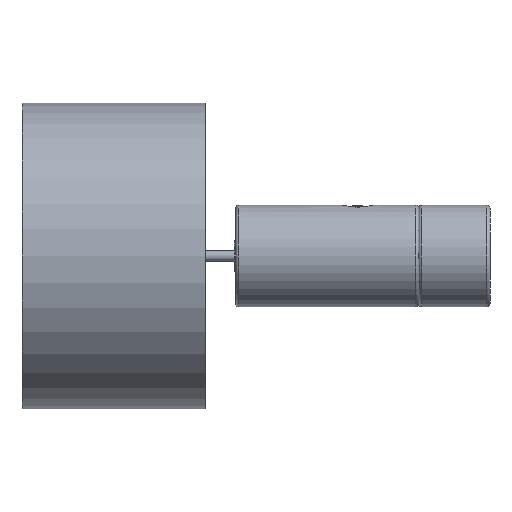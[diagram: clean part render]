
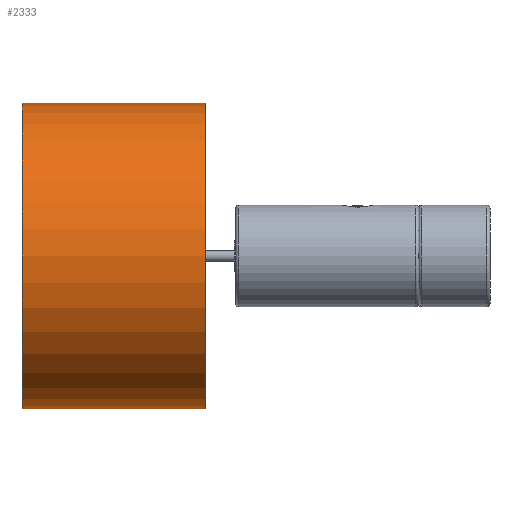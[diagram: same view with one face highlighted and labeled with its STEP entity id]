
A CAD part, left-side view. The second image highlights one B-rep face of the part: STEP entity #2333.
In plain terms, the highlighted cylindrical face has radius 150 mm (diameter 300 mm), a partial arc.
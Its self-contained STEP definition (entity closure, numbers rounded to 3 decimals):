
#37 = DIRECTION ( 'NONE',  ( 0., 0., 1. ) ) ;
#211 = DIRECTION ( 'NONE',  ( 0., -1., 0. ) ) ;
#245 = CIRCLE ( 'NONE', #2713, 150. ) ;
#260 = VERTEX_POINT ( 'NONE', #2412 ) ;
#264 = CARTESIAN_POINT ( 'NONE',  ( -21.861, 47.557, 481.5 ) ) ;
#419 = CYLINDRICAL_SURFACE ( 'NONE', #2124, 150. ) ;
#483 = EDGE_CURVE ( 'NONE', #260, #2710, #2455, .T. ) ;
#485 = CARTESIAN_POINT ( 'NONE',  ( -21.861, 227.557, 481.5 ) ) ;
#655 = DIRECTION ( 'NONE',  ( 0., 1., 0. ) ) ;
#678 = DIRECTION ( 'NONE',  ( 0., 0., 1. ) ) ;
#693 = DIRECTION ( 'NONE',  ( 0., 1., 0. ) ) ;
#746 = CARTESIAN_POINT ( 'NONE',  ( -21.861, 227.557, 331.5 ) ) ;
#832 = LINE ( 'NONE', #1497, #2453 ) ;
#882 = CARTESIAN_POINT ( 'NONE',  ( -21.861, 47.557, 631.5 ) ) ;
#1212 = ORIENTED_EDGE ( 'NONE', *, *, #2272, .T. ) ;
#1318 = ORIENTED_EDGE ( 'NONE', *, *, #1651, .T. ) ;
#1372 = DIRECTION ( 'NONE',  ( 0., 0., -1. ) ) ;
#1462 = VERTEX_POINT ( 'NONE', #746 ) ;
#1497 = CARTESIAN_POINT ( 'NONE',  ( -21.861, 227.557, 331.5 ) ) ;
#1651 = EDGE_CURVE ( 'NONE', #1462, #2448, #832, .T. ) ;
#1853 = CARTESIAN_POINT ( 'NONE',  ( -21.861, 47.557, 331.5 ) ) ;
#1963 = ORIENTED_EDGE ( 'NONE', *, *, #2740, .F. ) ;
#2007 = DIRECTION ( 'NONE',  ( 0., -1., 0. ) ) ;
#2027 = CARTESIAN_POINT ( 'NONE',  ( -21.861, 227.557, 631.5 ) ) ;
#2045 = DIRECTION ( 'NONE',  ( 0., -1., 0. ) ) ;
#2100 = ORIENTED_EDGE ( 'NONE', *, *, #483, .F. ) ;
#2124 = AXIS2_PLACEMENT_3D ( 'NONE', #485, #2007, #1372 ) ;
#2128 = CIRCLE ( 'NONE', #2579, 150. ) ;
#2272 = EDGE_CURVE ( 'NONE', #2448, #2710, #2128, .T. ) ;
#2333 = ADVANCED_FACE ( 'NONE', ( #2625 ), #419, .T. ) ;
#2412 = CARTESIAN_POINT ( 'NONE',  ( -21.861, 227.557, 631.5 ) ) ;
#2422 = EDGE_LOOP ( 'NONE', ( #2100, #1963, #1318, #1212 ) ) ;
#2435 = CARTESIAN_POINT ( 'NONE',  ( -21.861, 227.557, 481.5 ) ) ;
#2448 = VERTEX_POINT ( 'NONE', #1853 ) ;
#2453 = VECTOR ( 'NONE', #211, 1000. ) ;
#2455 = LINE ( 'NONE', #2027, #2559 ) ;
#2559 = VECTOR ( 'NONE', #2045, 1000. ) ;
#2579 = AXIS2_PLACEMENT_3D ( 'NONE', #264, #655, #37 ) ;
#2625 = FACE_OUTER_BOUND ( 'NONE', #2422, .T. ) ;
#2710 = VERTEX_POINT ( 'NONE', #882 ) ;
#2713 = AXIS2_PLACEMENT_3D ( 'NONE', #2435, #693, #678 ) ;
#2740 = EDGE_CURVE ( 'NONE', #1462, #260, #245, .T. ) ;
